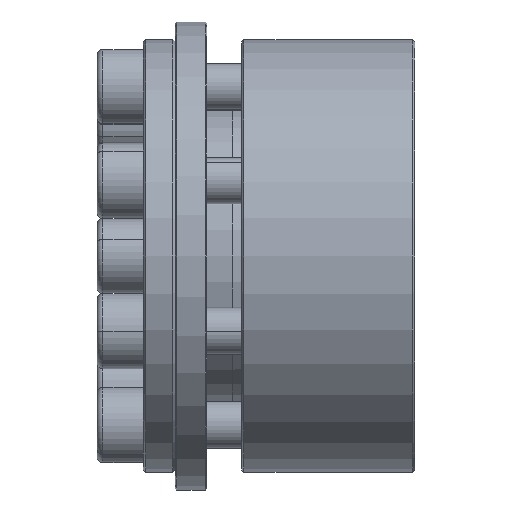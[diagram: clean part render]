
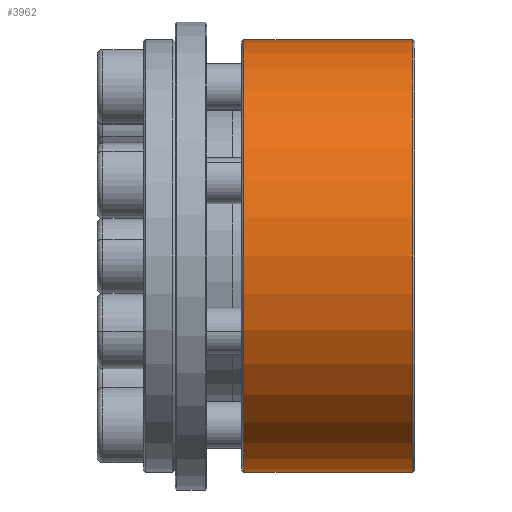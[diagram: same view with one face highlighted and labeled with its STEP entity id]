
A CAD part, front view. The second image highlights one B-rep face of the part: STEP entity #3962.
In plain terms, the highlighted cylindrical face has radius 37.45 mm (diameter 74.9 mm), a partial arc.
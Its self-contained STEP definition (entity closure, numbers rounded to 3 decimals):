
#87 = EDGE_CURVE ( 'NONE', #7372, #1307, #6363, .T. ) ;
#224 = CARTESIAN_POINT ( 'NONE',  ( -59.166, 26.04, 37.45 ) ) ;
#479 = EDGE_CURVE ( 'NONE', #7372, #2322, #1506, .T. ) ;
#1307 = VERTEX_POINT ( 'NONE', #4713 ) ;
#1454 = CYLINDRICAL_SURFACE ( 'NONE', #4209, 37.45 ) ;
#1506 = CIRCLE ( 'NONE', #7365, 37.45 ) ;
#1662 = DIRECTION ( 'NONE',  ( -1., 0., 0. ) ) ;
#2058 = CARTESIAN_POINT ( 'NONE',  ( -88.766, 26.04, 0. ) ) ;
#2322 = VERTEX_POINT ( 'NONE', #224 ) ;
#2497 = VECTOR ( 'NONE', #7591, 1000. ) ;
#2698 = FACE_OUTER_BOUND ( 'NONE', #6924, .T. ) ;
#3028 = CARTESIAN_POINT ( 'NONE',  ( -88.366, 26.04, 37.45 ) ) ;
#3036 = CARTESIAN_POINT ( 'NONE',  ( -88.766, 26.04, -37.45 ) ) ;
#3371 = DIRECTION ( 'NONE',  ( -1., 0., 0. ) ) ;
#3494 = CARTESIAN_POINT ( 'NONE',  ( -59.166, 26.04, -37.45 ) ) ;
#3729 = CIRCLE ( 'NONE', #5377, 37.45 ) ;
#3912 = DIRECTION ( 'NONE',  ( 1., 0., 0. ) ) ;
#3962 = ADVANCED_FACE ( 'NONE', ( #2698 ), #1454, .T. ) ;
#4027 = ORIENTED_EDGE ( 'NONE', *, *, #87, .F. ) ;
#4209 = AXIS2_PLACEMENT_3D ( 'NONE', #2058, #5739, #7607 ) ;
#4606 = EDGE_CURVE ( 'NONE', #2322, #7468, #6071, .T. ) ;
#4713 = CARTESIAN_POINT ( 'NONE',  ( -88.366, 26.04, -37.45 ) ) ;
#5377 = AXIS2_PLACEMENT_3D ( 'NONE', #7645, #3912, #5936 ) ;
#5531 = ORIENTED_EDGE ( 'NONE', *, *, #479, .T. ) ;
#5607 = VECTOR ( 'NONE', #3371, 1000. ) ;
#5739 = DIRECTION ( 'NONE',  ( -1., 0., 0. ) ) ;
#5936 = DIRECTION ( 'NONE',  ( 0., 0., -1. ) ) ;
#6059 = ORIENTED_EDGE ( 'NONE', *, *, #4606, .T. ) ;
#6071 = LINE ( 'NONE', #8029, #5607 ) ;
#6351 = DIRECTION ( 'NONE',  ( 0., 0., 1. ) ) ;
#6363 = LINE ( 'NONE', #3036, #2497 ) ;
#6924 = EDGE_LOOP ( 'NONE', ( #4027, #5531, #6059, #8298 ) ) ;
#7365 = AXIS2_PLACEMENT_3D ( 'NONE', #7582, #1662, #6351 ) ;
#7372 = VERTEX_POINT ( 'NONE', #3494 ) ;
#7468 = VERTEX_POINT ( 'NONE', #3028 ) ;
#7582 = CARTESIAN_POINT ( 'NONE',  ( -59.166, 26.04, 0. ) ) ;
#7591 = DIRECTION ( 'NONE',  ( -1., 0., 0. ) ) ;
#7607 = DIRECTION ( 'NONE',  ( 0., 0., 1. ) ) ;
#7645 = CARTESIAN_POINT ( 'NONE',  ( -88.366, 26.04, 0. ) ) ;
#8029 = CARTESIAN_POINT ( 'NONE',  ( -88.766, 26.04, 37.45 ) ) ;
#8042 = EDGE_CURVE ( 'NONE', #7468, #1307, #3729, .T. ) ;
#8298 = ORIENTED_EDGE ( 'NONE', *, *, #8042, .T. ) ;
